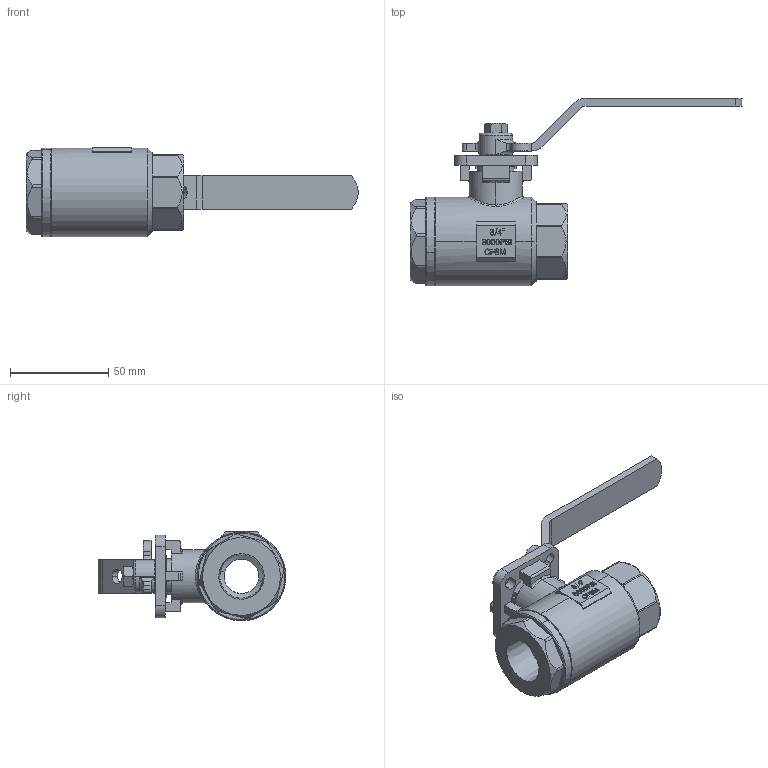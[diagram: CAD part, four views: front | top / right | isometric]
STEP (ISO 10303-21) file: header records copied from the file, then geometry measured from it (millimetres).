
FILE_DESCRIPTION (( 'STEP AP203' ), '1' );
FILE_NAME ('21D把手.STEP', '2019-05-21T08:58:32', ( 'bx' ), ( '' ), 'SwSTEP 2.0', 'SolidWorks 2014', '' );
FILE_SCHEMA (( 'CONFIG_CONTROL_DESIGN' ));
Length unit declared in the file: millimetre
Products named in the file (1): 21D把手
Bounding box: 168.55 x 95.28 x 45.4 mm (x, y, z)
Volume: 118403.7 mm3; surface area: 54476 mm2
Topology: 17 solids, 17 shells, 811 faces, 2140 edges, 1385 vertices
Faces by surface type: bspline 292, plane 250, cylinder 172, cone 64, torus 28, sphere 5
Entity records: 34239 total; most frequent: CARTESIAN_POINT 15897, ORIENTED_EDGE 4246, DIRECTION 2976, EDGE_CURVE 2123, VERTEX_POINT 1379, AXIS2_PLACEMENT_3D 1006, LINE 964, VECTOR 964
